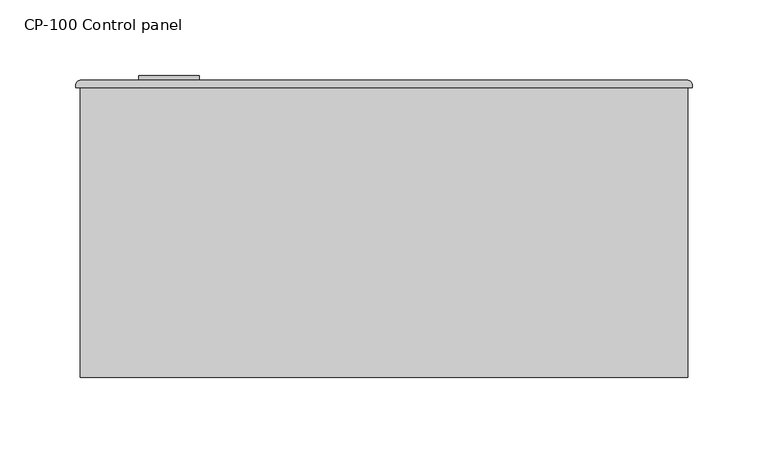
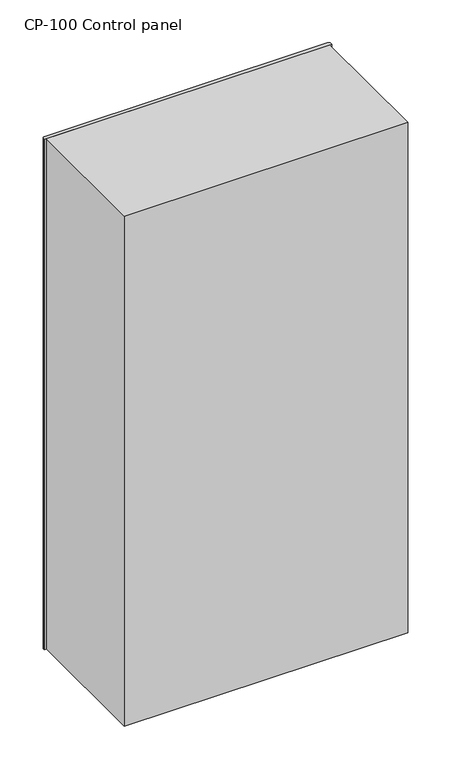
"""IFC4 building model written with IfcOpenShell, lengths in millimetres: proxy geometry, CP-100_Control_Panel_Wallmount_BIM_Model : CP-100 Control panel."""

import ifcopenshell
import ifcopenshell.guid

model = None  # the IFC model being written
_history = None  # IfcOwnerHistory: only IFC2X3 demands one
_inside = {}  # id of a spatial element -> (the spatial element, [elements in it])
_under = {}  # id of a project, library or spatial element -> (it, [spatial elements below it])
_declared = {}  # id of a project -> (the project, [libraries it declares])
_typed = {}  # id of a type object -> (the type object, [elements of that type])
_made_of = {}  # id of a material, layer set ... -> (it, [elements and type objects made of it])


def new_model(schema):
    """Start an empty IFC model of exactly this schema.

    Asked for "IFC4X3", IfcOpenShell would pick the latest addendum, in which some entities
    have other attributes; the version numbers below select the first issue.
    IFC2X3 requires an IfcOwnerHistory on every rooted entity: one is made here for all.
    """
    global model, _history
    if schema == "IFC4X3":
        model = ifcopenshell.file(schema_version=(4, 3, 0, 0))
    else:
        model = ifcopenshell.file(schema=schema)
    _inside.clear()
    _under.clear()
    _declared.clear()
    _typed.clear()
    _made_of.clear()
    _history = None
    if model.schema == "IFC2X3":
        org = make("IfcOrganization", Name="unknown")
        user = make(
            "IfcPersonAndOrganization",
            ThePerson=make("IfcPerson", FamilyName="unknown"),
            TheOrganization=org,
        )
        app = make(
            "IfcApplication",
            ApplicationDeveloper=org,
            Version="unknown",
            ApplicationFullName="unknown",
            ApplicationIdentifier="unknown",
        )
        _history = make(
            "IfcOwnerHistory",
            OwningUser=user,
            OwningApplication=app,
            ChangeAction="ADDED",
            CreationDate=0,
        )
    return model


def make(cls, **values):
    """One entity of the class cls with the attributes given. An attribute that is None is left unset."""
    return model.create_entity(
        cls, **{name: value for name, value in values.items() if value is not None}
    )


def rooted(cls, **values):
    """An entity with a GlobalId (a new one), such as an element, a storey or a relation."""
    return make(cls, GlobalId=ifcopenshell.guid.new(), OwnerHistory=_history, **values)


def si_unit(unit_type, name, prefix=None):
    """IfcSIUnit, for example si_unit("LENGTHUNIT", "METRE", prefix="MILLI")."""
    return make("IfcSIUnit", UnitType=unit_type, Prefix=prefix, Name=name)


def assignment(units):
    """IfcUnitAssignment: the units of a project."""
    return None if units is None else make("IfcUnitAssignment", Units=units)


def point(xyz):
    """IfcCartesianPoint."""
    return None if xyz is None else make("IfcCartesianPoint", Coordinates=xyz)


def direction(xyz):
    """IfcDirection."""
    return None if xyz is None else make("IfcDirection", DirectionRatios=xyz)


def frame(location, z_axis=None, x_axis=None):
    """IfcAxis2Placement3D, a coordinate frame: its origin and axes. An axis left out is left unset."""
    return make(
        "IfcAxis2Placement3D",
        Location=point(location),
        Axis=direction(z_axis),
        RefDirection=direction(x_axis),
    )


def frame_2d(location, x_axis=None):
    """IfcAxis2Placement2D, a coordinate frame in the plane: its origin and x axis."""
    return make(
        "IfcAxis2Placement2D", Location=point(location), RefDirection=direction(x_axis)
    )


def origin():
    """The frame at (0, 0, 0) with its axes left unset."""
    return frame((0.0, 0.0, 0.0))


def place(relative_to, where):
    """IfcLocalPlacement: puts the frame where relative to a parent placement (None: the world)."""
    return make(
        "IfcLocalPlacement", PlacementRelTo=relative_to, RelativePlacement=where
    )


def context(
    kind, dimensions, precision=None, world=None, true_north=None, identifier=None
):
    """IfcGeometricRepresentationContext, for example the 3D "Model" context."""
    return make(
        "IfcGeometricRepresentationContext",
        ContextIdentifier=identifier,
        ContextType=kind,
        CoordinateSpaceDimension=dimensions,
        Precision=precision,
        WorldCoordinateSystem=world,
        TrueNorth=true_north,
    )


def project(units=None, contexts=None):
    """IfcProject with its units and contexts."""
    return rooted(
        "IfcProject",
        Name="project",
        RepresentationContexts=contexts,
        UnitsInContext=assignment(units),
    )


def spatial(cls, under=None, at=None, **own):
    """A site, building, storey or space (cls), placed at a placement, below another one or the project."""
    s = rooted(cls, ObjectPlacement=at, **own)
    if under is not None:
        _under.setdefault(under.id(), (under, []))[1].append(s)
    return s


def polyline(points):
    """IfcPolyline through the points."""
    return make("IfcPolyline", Points=[point(p) for p in points])


def circle_curve(where, radius):
    """IfcCircle in the frame where."""
    return make("IfcCircle", Position=where, Radius=radius)


def trimmed(basis, trim1, trim2, sense, master):
    """IfcTrimmedCurve: the piece of a basis curve between two trims."""
    return make(
        "IfcTrimmedCurve",
        BasisCurve=basis,
        Trim1=trim1,
        Trim2=trim2,
        SenseAgreement=sense,
        MasterRepresentation=master,
    )


def segment(curve, same_sense, transition):
    """IfcCompositeCurveSegment."""
    return make(
        "IfcCompositeCurveSegment",
        Transition=transition,
        SameSense=same_sense,
        ParentCurve=curve,
    )


def composite_curve(segments, self_intersect=None):
    """IfcCompositeCurve: segments joined end to end."""
    return make("IfcCompositeCurve", Segments=segments, SelfIntersect=self_intersect)


def outline(outer, holes=None, kind="AREA"):
    """IfcArbitraryClosedProfileDef: a profile drawn as a closed curve; with holes, ...WithVoids."""
    if holes is None:
        return make("IfcArbitraryClosedProfileDef", ProfileType=kind, OuterCurve=outer)
    return make(
        "IfcArbitraryProfileDefWithVoids",
        ProfileType=kind,
        OuterCurve=outer,
        InnerCurves=holes,
    )


def extrude(swept, where, along, depth):
    """IfcExtrudedAreaSolid: the profile swept, set in the frame where, extruded along a direction by depth."""
    return make(
        "IfcExtrudedAreaSolid",
        SweptArea=swept,
        Position=where,
        ExtrudedDirection=direction(along),
        Depth=depth,
    )


def shape(context_of_items, identifier, shape_type, items):
    """IfcShapeRepresentation: the items that make up one representation, for example the "Body"."""
    return make(
        "IfcShapeRepresentation",
        ContextOfItems=context_of_items,
        RepresentationIdentifier=identifier,
        RepresentationType=shape_type,
        Items=items,
    )


def source(mapping_origin, context_of_items, identifier, shape_type, items):
    """IfcRepresentationMap: a shape defined once, which mapped items show again and again."""
    return make(
        "IfcRepresentationMap",
        MappingOrigin=mapping_origin,
        MappedRepresentation=shape(context_of_items, identifier, shape_type, items),
    )


def transform(
    local_origin,
    x_axis=None,
    y_axis=None,
    z_axis=None,
    scale=None,
    scale2=None,
    scale3=None,
    uniform=True,
):
    """IfcCartesianTransformationOperator3D, or its non-uniform kind. x_axis, y_axis, z_axis: its Axis1, 2, 3."""
    if uniform:
        return make(
            "IfcCartesianTransformationOperator3D",
            Axis1=direction(x_axis),
            Axis2=direction(y_axis),
            LocalOrigin=point(local_origin),
            Scale=scale,
            Axis3=direction(z_axis),
        )
    return make(
        "IfcCartesianTransformationOperator3DnonUniform",
        Axis1=direction(x_axis),
        Axis2=direction(y_axis),
        LocalOrigin=point(local_origin),
        Scale=scale,
        Axis3=direction(z_axis),
        Scale2=scale2,
        Scale3=scale3,
    )


def mapped(mapping_source, mapping_target):
    """IfcMappedItem: shows the shape of a source again, moved by a transform."""
    return make(
        "IfcMappedItem", MappingSource=mapping_source, MappingTarget=mapping_target
    )


def made_of(thing, what):
    """Note that an element or type object is made of a material, layer set ...; save() writes the relation."""
    if what is not None:
        _made_of.setdefault(what.id(), (what, []))[1].append(thing)
    return thing


def element(
    cls,
    number,
    at=None,
    inside=None,
    cuts=None,
    type_object=None,
    material=None,
    context=None,
    identifier="Body",
    shape_type=None,
    held_by="IfcProductDefinitionShape",
    body=None,
    shapes=None,
    **own,
):
    """One element of the class cls, such as IfcWall. Its Tag is "e" and its number.

    at: its placement. inside: the storey or other place that contains it. cuts: it is an
    opening in that element (IfcRelVoidsElement). A single representation is given by context,
    identifier, shape_type and body (its items); several are given by shapes. held_by: the class
    of the entity that holds the representations. save() writes the other relations.
    """
    e = rooted(cls, Tag="e%d" % number, ObjectPlacement=at, **own)
    if body is not None:
        shapes = [shape(context, identifier, shape_type, body)]
    if shapes is not None:
        e.Representation = make(held_by, Representations=shapes)
    if inside is not None:
        _inside.setdefault(inside.id(), (inside, []))[1].append(e)
    if cuts is not None:
        rooted(
            "IfcRelVoidsElement", RelatingBuildingElement=cuts, RelatedOpeningElement=e
        )
    if type_object is not None:
        _typed.setdefault(type_object.id(), (type_object, []))[1].append(e)
    return made_of(e, material)


def aggregate(whole, parts):
    """IfcRelAggregates: a whole, such as a stair, and the parts it consists of."""
    return rooted("IfcRelAggregates", RelatingObject=whole, RelatedObjects=parts)


def save(model, path):
    """Write the relations noted so far, then the file.

    IfcRelAggregates (storeys below a building ...), IfcRelContainedInSpatialStructure (elements
    in a storey), IfcRelDefinesByType, IfcRelAssociatesMaterial and IfcRelDeclares: one each for
    every whole, place, type object, material and project.
    """
    for whole, parts in _under.values():
        aggregate(whole, parts)
    for where, things in _inside.values():
        rooted(
            "IfcRelContainedInSpatialStructure",
            RelatedElements=things,
            RelatingStructure=where,
        )
    for kind, things in _typed.values():
        rooted("IfcRelDefinesByType", RelatedObjects=things, RelatingType=kind)
    for what, things in _made_of.values():
        rooted("IfcRelAssociatesMaterial", RelatedObjects=things, RelatingMaterial=what)
    for by, libraries in _declared.values():
        rooted("IfcRelDeclares", RelatingContext=by, RelatedDefinitions=libraries)
    model.write(path)


def cp_100_control_panel_1b3524eb(model_context):
    return source(origin(), model_context, "Body", "SweptSolid", [
        extrude(outline(composite_curve([segment(trimmed(circle_curve(frame_2d((841.0, -16.7274277)), 20.0), [point((841.0, -36.7274277))], [point((841.0, 3.2725723))], False, "CARTESIAN"), True, "CONTINUOUS"), segment(trimmed(circle_curve(frame_2d((841.0, -16.7274277)), 20.0), [point((841.0, 3.2725723))], [point((841.0, -36.7274277))], False, "CARTESIAN"), True, "CONTINUOUS")], self_intersect=False), holes=[polyline([(848.2746144, -18.5031745), (848.2746144, -13.5031745), (833.2746144, -13.5031745), (833.2746144, -18.5031745), (848.2746144, -18.5031745)])]), frame((0.0, 309.0817149, 0.0), z_axis=(0.0, 1.0, 0.0), x_axis=(0.0, 0.0, 1.0)), (0.0, 0.0, 1.0), 3.0),
        extrude(outline(composite_curve([segment(trimmed(circle_curve(frame_2d((325.0, 306.0817149)), 3.0), [point((325.0, 309.0817149))], [point((328.0, 306.0817149))], False, "CARTESIAN"), True, "CONTINUOUS"), segment(polyline([(328.0, 306.0817149), (328.0, 304.2), (-78.0, 304.2), (-78.0, 306.0817149)]), True, "CONTINUOUS"), segment(trimmed(circle_curve(frame_2d((-75.0, 306.0817149)), 3.0), [point((-78.0, 306.0817149))], [point((-75.0, 309.0817149))], False, "CARTESIAN"), True, "CONTINUOUS"), segment(polyline([(-75.0, 309.0817149), (325.0, 309.0817149)]), True, "CONTINUOUS")], self_intersect=False)), frame((0.0, 0.0, 460.0), z_axis=(0.0, 0.0, 1.0), x_axis=(1.0, 0.0, 0.0)), (0.0, 0.0, 1.0), 762.0),
        extrude(outline(polyline([(325.0, 304.2), (325.0, 113.0815331), (-75.0, 113.0815331), (-75.0, 304.2), (325.0, 304.2)])), frame((0.0, 0.0, 460.0), z_axis=(0.0, 0.0, 1.0), x_axis=(1.0, 0.0, 0.0)), (0.0, 0.0, 1.0), 762.0),
    ])


if __name__ == "__main__":
    model = new_model("IFC4")
    model_context = context("Model", 3, world=origin())
    ifc_project = project(units=[si_unit("LENGTHUNIT", "METRE", prefix="MILLI")], contexts=[model_context])
    site = spatial("IfcSite", under=ifc_project)
    building = spatial("IfcBuilding", under=site)
    placement = place(None, origin())
    cp_100_control_panel_shape = cp_100_control_panel_1b3524eb(model_context)
    element("IfcBuildingElementProxy", 1, Name="CP-100_Control_Panel_Wallmount_BIM_Model : CP-100 Control panel", ObjectType="CP-100_Control_Panel_Wallmount_BIM_Model : CP-100 Control panel", at=placement, inside=building, context=model_context, shape_type="MappedRepresentation", body=[
        mapped(cp_100_control_panel_shape, transform((0.0, 0.0, 0.0), x_axis=(1.0, 0.0, 0.0), y_axis=(0.0, 1.0, 0.0), z_axis=(0.0, 0.0, 1.0))),
    ])
    save(model, "model.ifc")
